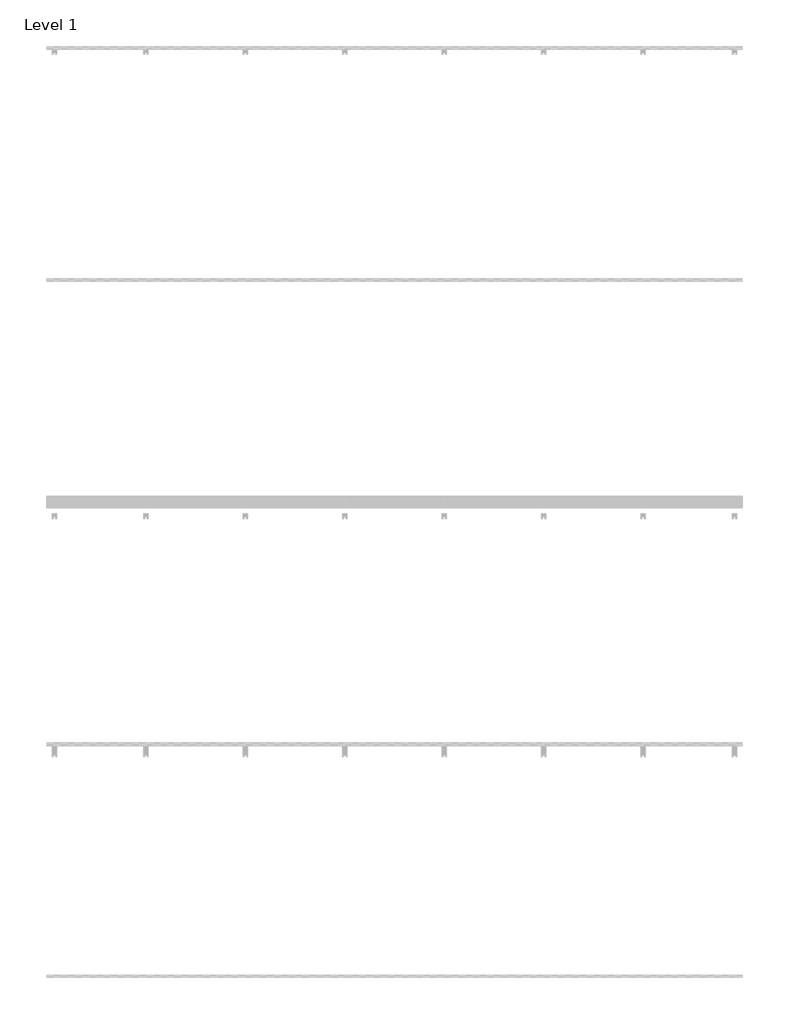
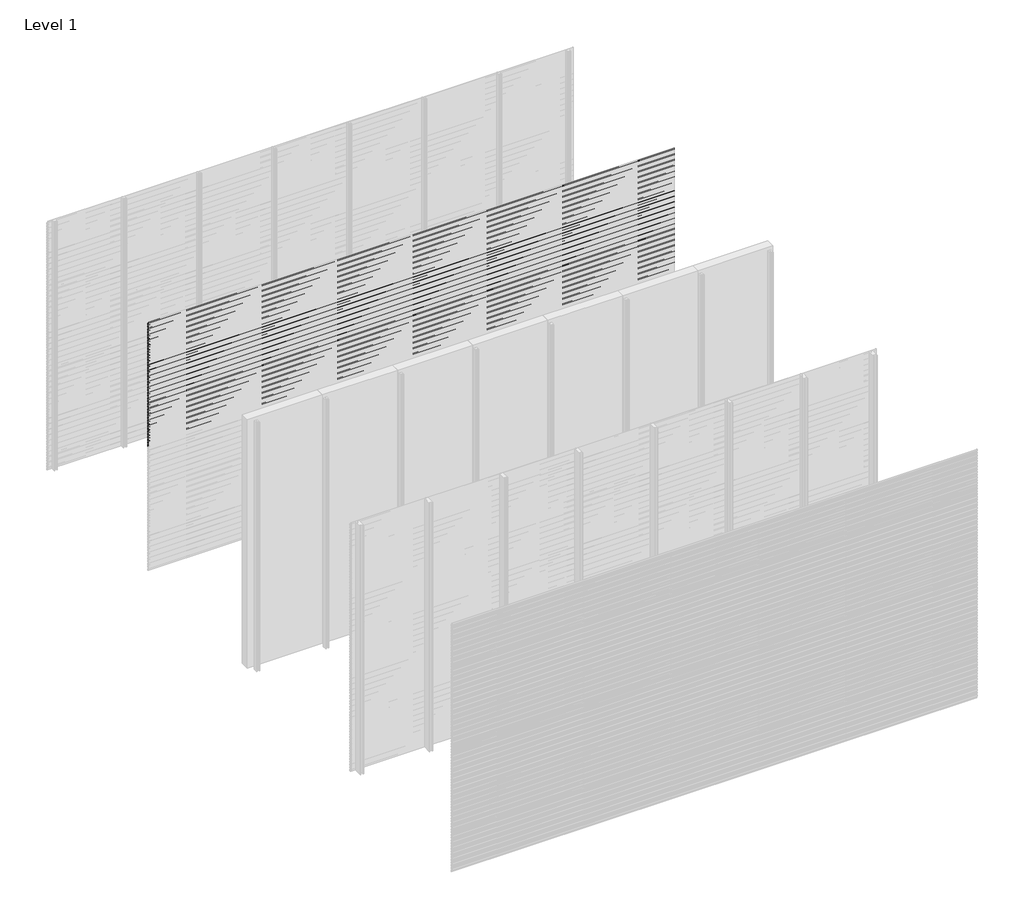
# One storey, part 69 of 96: 77 proxies.
"""IFC4 building model written with IfcOpenShell, lengths in millimetres."""

from ifc_helpers import new_model, si_unit, frame, origin, place, context, project, spatial, polyline, outline, extrude, element, save

model = new_model("IFC4")

# Units and contexts
model_context = context("Model", 3, world=origin())
ifc_project = project(units=[si_unit("LENGTHUNIT", "METRE", prefix="MILLI")], contexts=[model_context])

# Site, building, storey
site = spatial("IfcSite", under=ifc_project)
building = spatial("IfcBuilding", under=site)
storey = spatial("IfcBuildingStorey", under=building, Name="Level 1", Elevation=0.0)

# Proxies
placement = place(None, origin())
element("IfcBuildingElementProxy", 1, Name="Wall Sweeps", at=placement, inside=storey, context=model_context, shape_type="SweptSolid", body=[
    extrude(outline(polyline([(-13977.6, 2971.7655033), (-13977.6, 2957.4779188), (-13982.4114965, 2954.7), (-13982.4114965, 2955.9701706), (-13978.85, 2958.0264016), (-13978.85, 2971.0437382), (-13998.0, 2982.1000799), (-13998.0, 2997.0), (-13996.75, 2997.0), (-13996.75, 2982.8217609), (-13977.6, 2971.7655033)])), frame((0.0, 0.0, 0.0), z_axis=(1.0, 0.0, 0.0), x_axis=(0.0, 1.0, 0.0)), (0.0, 0.0, 1.0), 6000.0),
])
element("IfcBuildingElementProxy", 2, Name="Wall Sweeps", at=placement, inside=storey, context=model_context, shape_type="SweptSolid", body=[
    extrude(outline(polyline([(-13977.6, 2938.4655033), (-13977.6, 2924.1779188), (-13982.4114965, 2921.4), (-13982.4114965, 2922.6701706), (-13978.85, 2924.7264016), (-13978.85, 2937.7437382), (-13998.0, 2948.8000799), (-13998.0, 2963.7), (-13996.75, 2963.7), (-13996.75, 2949.5217609), (-13977.6, 2938.4655033)])), frame((0.0, 0.0, 0.0), z_axis=(1.0, 0.0, 0.0), x_axis=(0.0, 1.0, 0.0)), (0.0, 0.0, 1.0), 6000.0),
])
element("IfcBuildingElementProxy", 3, Name="Wall Sweeps", at=placement, inside=storey, context=model_context, shape_type="SweptSolid", body=[
    extrude(outline(polyline([(-13977.6, 2905.1655033), (-13977.6, 2890.8779188), (-13982.4114965, 2888.1), (-13982.4114965, 2889.3701706), (-13978.85, 2891.4264016), (-13978.85, 2904.4437382), (-13998.0, 2915.5000799), (-13998.0, 2930.4), (-13996.75, 2930.4), (-13996.75, 2916.2217609), (-13977.6, 2905.1655033)])), frame((0.0, 0.0, 0.0), z_axis=(1.0, 0.0, 0.0), x_axis=(0.0, 1.0, 0.0)), (0.0, 0.0, 1.0), 6000.0),
])
element("IfcBuildingElementProxy", 4, Name="Wall Sweeps", at=placement, inside=storey, context=model_context, shape_type="SweptSolid", body=[
    extrude(outline(polyline([(-13977.6, 2871.8655033), (-13977.6, 2857.5779188), (-13982.4114965, 2854.8), (-13982.4114965, 2856.0701706), (-13978.85, 2858.1264016), (-13978.85, 2871.1437382), (-13998.0, 2882.2000799), (-13998.0, 2897.1), (-13996.75, 2897.1), (-13996.75, 2882.9217609), (-13977.6, 2871.8655033)])), frame((0.0, 0.0, 0.0), z_axis=(1.0, 0.0, 0.0), x_axis=(0.0, 1.0, 0.0)), (0.0, 0.0, 1.0), 6000.0),
])
element("IfcBuildingElementProxy", 5, Name="Wall Sweeps", at=placement, inside=storey, context=model_context, shape_type="SweptSolid", body=[
    extrude(outline(polyline([(-13977.6, 2838.5655033), (-13977.6, 2824.2779188), (-13982.4114965, 2821.5), (-13982.4114965, 2822.7701706), (-13978.85, 2824.8264016), (-13978.85, 2837.8437382), (-13998.0, 2848.9000799), (-13998.0, 2863.8), (-13996.75, 2863.8), (-13996.75, 2849.6217609), (-13977.6, 2838.5655033)])), frame((0.0, 0.0, 0.0), z_axis=(1.0, 0.0, 0.0), x_axis=(0.0, 1.0, 0.0)), (0.0, 0.0, 1.0), 6000.0),
])
element("IfcBuildingElementProxy", 6, Name="Wall Sweeps", at=placement, inside=storey, context=model_context, shape_type="SweptSolid", body=[
    extrude(outline(polyline([(-13977.6, 2805.2655033), (-13977.6, 2790.9779188), (-13982.4114965, 2788.2), (-13982.4114965, 2789.4701706), (-13978.85, 2791.5264016), (-13978.85, 2804.5437382), (-13998.0, 2815.6000799), (-13998.0, 2830.5), (-13996.75, 2830.5), (-13996.75, 2816.3217609), (-13977.6, 2805.2655033)])), frame((0.0, 0.0, 0.0), z_axis=(1.0, 0.0, 0.0), x_axis=(0.0, 1.0, 0.0)), (0.0, 0.0, 1.0), 6000.0),
])
element("IfcBuildingElementProxy", 7, Name="Wall Sweeps", at=placement, inside=storey, context=model_context, shape_type="SweptSolid", body=[
    extrude(outline(polyline([(-13977.6, 2771.9655033), (-13977.6, 2757.6779188), (-13982.4114965, 2754.9), (-13982.4114965, 2756.1701706), (-13978.85, 2758.2264016), (-13978.85, 2771.2437382), (-13998.0, 2782.3000799), (-13998.0, 2797.2), (-13996.75, 2797.2), (-13996.75, 2783.0217609), (-13977.6, 2771.9655033)])), frame((0.0, 0.0, 0.0), z_axis=(1.0, 0.0, 0.0), x_axis=(0.0, 1.0, 0.0)), (0.0, 0.0, 1.0), 6000.0),
])
element("IfcBuildingElementProxy", 8, Name="Wall Sweeps", at=placement, inside=storey, context=model_context, shape_type="SweptSolid", body=[
    extrude(outline(polyline([(-13977.6, 2738.6655033), (-13977.6, 2724.3779188), (-13982.4114965, 2721.6), (-13982.4114965, 2722.8701706), (-13978.85, 2724.9264016), (-13978.85, 2737.9437382), (-13998.0, 2749.0000799), (-13998.0, 2763.9), (-13996.75, 2763.9), (-13996.75, 2749.7217609), (-13977.6, 2738.6655033)])), frame((0.0, 0.0, 0.0), z_axis=(1.0, 0.0, 0.0), x_axis=(0.0, 1.0, 0.0)), (0.0, 0.0, 1.0), 6000.0),
])
element("IfcBuildingElementProxy", 9, Name="Wall Sweeps", at=placement, inside=storey, context=model_context, shape_type="SweptSolid", body=[
    extrude(outline(polyline([(-13977.6, 2705.3655033), (-13977.6, 2691.0779188), (-13982.4114965, 2688.3), (-13982.4114965, 2689.5701706), (-13978.85, 2691.6264016), (-13978.85, 2704.6437382), (-13998.0, 2715.7000799), (-13998.0, 2730.6), (-13996.75, 2730.6), (-13996.75, 2716.4217609), (-13977.6, 2705.3655033)])), frame((0.0, 0.0, 0.0), z_axis=(1.0, 0.0, 0.0), x_axis=(0.0, 1.0, 0.0)), (0.0, 0.0, 1.0), 6000.0),
])
element("IfcBuildingElementProxy", 10, Name="Wall Sweeps", at=placement, inside=storey, context=model_context, shape_type="SweptSolid", body=[
    extrude(outline(polyline([(-13977.6, 2672.0655033), (-13977.6, 2657.7779188), (-13982.4114965, 2655.0), (-13982.4114965, 2656.2701706), (-13978.85, 2658.3264016), (-13978.85, 2671.3437382), (-13998.0, 2682.4000799), (-13998.0, 2697.3), (-13996.75, 2697.3), (-13996.75, 2683.1217609), (-13977.6, 2672.0655033)])), frame((0.0, 0.0, 0.0), z_axis=(1.0, 0.0, 0.0), x_axis=(0.0, 1.0, 0.0)), (0.0, 0.0, 1.0), 6000.0),
])
element("IfcBuildingElementProxy", 11, Name="Wall Sweeps", at=placement, inside=storey, context=model_context, shape_type="SweptSolid", body=[
    extrude(outline(polyline([(-13977.6, 2638.7655033), (-13977.6, 2624.4779188), (-13982.4114965, 2621.7), (-13982.4114965, 2622.9701706), (-13978.85, 2625.0264016), (-13978.85, 2638.0437382), (-13998.0, 2649.1000799), (-13998.0, 2664.0), (-13996.75, 2664.0), (-13996.75, 2649.8217609), (-13977.6, 2638.7655033)])), frame((0.0, 0.0, 0.0), z_axis=(1.0, 0.0, 0.0), x_axis=(0.0, 1.0, 0.0)), (0.0, 0.0, 1.0), 6000.0),
])
element("IfcBuildingElementProxy", 12, Name="Wall Sweeps", at=placement, inside=storey, context=model_context, shape_type="SweptSolid", body=[
    extrude(outline(polyline([(-13977.6, 2605.4655033), (-13977.6, 2591.1779188), (-13982.4114965, 2588.4), (-13982.4114965, 2589.6701706), (-13978.85, 2591.7264016), (-13978.85, 2604.7437382), (-13998.0, 2615.8000799), (-13998.0, 2630.7), (-13996.75, 2630.7), (-13996.75, 2616.5217609), (-13977.6, 2605.4655033)])), frame((0.0, 0.0, 0.0), z_axis=(1.0, 0.0, 0.0), x_axis=(0.0, 1.0, 0.0)), (0.0, 0.0, 1.0), 6000.0),
])
element("IfcBuildingElementProxy", 13, Name="Wall Sweeps", at=placement, inside=storey, context=model_context, shape_type="SweptSolid", body=[
    extrude(outline(polyline([(-13977.6, 2572.1655033), (-13977.6, 2557.8779188), (-13982.4114965, 2555.1), (-13982.4114965, 2556.3701706), (-13978.85, 2558.4264016), (-13978.85, 2571.4437382), (-13998.0, 2582.5000799), (-13998.0, 2597.4), (-13996.75, 2597.4), (-13996.75, 2583.2217609), (-13977.6, 2572.1655033)])), frame((0.0, 0.0, 0.0), z_axis=(1.0, 0.0, 0.0), x_axis=(0.0, 1.0, 0.0)), (0.0, 0.0, 1.0), 6000.0),
])
element("IfcBuildingElementProxy", 14, Name="Wall Sweeps", at=placement, inside=storey, context=model_context, shape_type="SweptSolid", body=[
    extrude(outline(polyline([(-13977.6, 2538.8655033), (-13977.6, 2524.5779188), (-13982.4114965, 2521.8), (-13982.4114965, 2523.0701706), (-13978.85, 2525.1264016), (-13978.85, 2538.1437382), (-13998.0, 2549.2000799), (-13998.0, 2564.1), (-13996.75, 2564.1), (-13996.75, 2549.9217609), (-13977.6, 2538.8655033)])), frame((0.0, 0.0, 0.0), z_axis=(1.0, 0.0, 0.0), x_axis=(0.0, 1.0, 0.0)), (0.0, 0.0, 1.0), 6000.0),
])
element("IfcBuildingElementProxy", 15, Name="Wall Sweeps", at=placement, inside=storey, context=model_context, shape_type="SweptSolid", body=[
    extrude(outline(polyline([(-13977.6, 2505.5655033), (-13977.6, 2491.2779188), (-13982.4114965, 2488.5), (-13982.4114965, 2489.7701706), (-13978.85, 2491.8264016), (-13978.85, 2504.8437382), (-13998.0, 2515.9000799), (-13998.0, 2530.8), (-13996.75, 2530.8), (-13996.75, 2516.6217609), (-13977.6, 2505.5655033)])), frame((0.0, 0.0, 0.0), z_axis=(1.0, 0.0, 0.0), x_axis=(0.0, 1.0, 0.0)), (0.0, 0.0, 1.0), 6000.0),
])
element("IfcBuildingElementProxy", 16, Name="Wall Sweeps", at=placement, inside=storey, context=model_context, shape_type="SweptSolid", body=[
    extrude(outline(polyline([(-13977.6, 2472.2655033), (-13977.6, 2457.9779188), (-13982.4114965, 2455.2), (-13982.4114965, 2456.4701706), (-13978.85, 2458.5264016), (-13978.85, 2471.5437382), (-13998.0, 2482.6000799), (-13998.0, 2497.5), (-13996.75, 2497.5), (-13996.75, 2483.3217609), (-13977.6, 2472.2655033)])), frame((0.0, 0.0, 0.0), z_axis=(1.0, 0.0, 0.0), x_axis=(0.0, 1.0, 0.0)), (0.0, 0.0, 1.0), 6000.0),
])
element("IfcBuildingElementProxy", 17, Name="Wall Sweeps", at=placement, inside=storey, context=model_context, shape_type="SweptSolid", body=[
    extrude(outline(polyline([(-13977.6, 2438.9655033), (-13977.6, 2424.6779188), (-13982.4114965, 2421.9), (-13982.4114965, 2423.1701706), (-13978.85, 2425.2264016), (-13978.85, 2438.2437382), (-13998.0, 2449.3000799), (-13998.0, 2464.2), (-13996.75, 2464.2), (-13996.75, 2450.0217609), (-13977.6, 2438.9655033)])), frame((0.0, 0.0, 0.0), z_axis=(1.0, 0.0, 0.0), x_axis=(0.0, 1.0, 0.0)), (0.0, 0.0, 1.0), 6000.0),
])
element("IfcBuildingElementProxy", 18, Name="Wall Sweeps", at=placement, inside=storey, context=model_context, shape_type="SweptSolid", body=[
    extrude(outline(polyline([(-13977.6, 2405.6655033), (-13977.6, 2391.3779188), (-13982.4114965, 2388.6), (-13982.4114965, 2389.8701706), (-13978.85, 2391.9264016), (-13978.85, 2404.9437382), (-13998.0, 2416.0000799), (-13998.0, 2430.9), (-13996.75, 2430.9), (-13996.75, 2416.7217609), (-13977.6, 2405.6655033)])), frame((0.0, 0.0, 0.0), z_axis=(1.0, 0.0, 0.0), x_axis=(0.0, 1.0, 0.0)), (0.0, 0.0, 1.0), 6000.0),
])
element("IfcBuildingElementProxy", 19, Name="Wall Sweeps", at=placement, inside=storey, context=model_context, shape_type="SweptSolid", body=[
    extrude(outline(polyline([(-13977.6, 2372.3655033), (-13977.6, 2358.0779188), (-13982.4114965, 2355.3), (-13982.4114965, 2356.5701706), (-13978.85, 2358.6264016), (-13978.85, 2371.6437382), (-13998.0, 2382.7000799), (-13998.0, 2397.6), (-13996.75, 2397.6), (-13996.75, 2383.4217609), (-13977.6, 2372.3655033)])), frame((0.0, 0.0, 0.0), z_axis=(1.0, 0.0, 0.0), x_axis=(0.0, 1.0, 0.0)), (0.0, 0.0, 1.0), 6000.0),
])
element("IfcBuildingElementProxy", 20, Name="Wall Sweeps", at=placement, inside=storey, context=model_context, shape_type="SweptSolid", body=[
    extrude(outline(polyline([(-13977.6, 2339.0655033), (-13977.6, 2324.7779188), (-13982.4114965, 2322.0), (-13982.4114965, 2323.2701706), (-13978.85, 2325.3264016), (-13978.85, 2338.3437382), (-13998.0, 2349.4000799), (-13998.0, 2364.3), (-13996.75, 2364.3), (-13996.75, 2350.1217609), (-13977.6, 2339.0655033)])), frame((0.0, 0.0, 0.0), z_axis=(1.0, 0.0, 0.0), x_axis=(0.0, 1.0, 0.0)), (0.0, 0.0, 1.0), 6000.0),
])
element("IfcBuildingElementProxy", 21, Name="Wall Sweeps", at=placement, inside=storey, context=model_context, shape_type="SweptSolid", body=[
    extrude(outline(polyline([(-13977.6, 2305.7655033), (-13977.6, 2291.4779188), (-13982.4114965, 2288.7), (-13982.4114965, 2289.9701706), (-13978.85, 2292.0264016), (-13978.85, 2305.0437382), (-13998.0, 2316.1000799), (-13998.0, 2331.0), (-13996.75, 2331.0), (-13996.75, 2316.8217609), (-13977.6, 2305.7655033)])), frame((0.0, 0.0, 0.0), z_axis=(1.0, 0.0, 0.0), x_axis=(0.0, 1.0, 0.0)), (0.0, 0.0, 1.0), 6000.0),
])
element("IfcBuildingElementProxy", 22, Name="Wall Sweeps", at=placement, inside=storey, context=model_context, shape_type="SweptSolid", body=[
    extrude(outline(polyline([(-13977.6, 2272.4655033), (-13977.6, 2258.1779188), (-13982.4114965, 2255.4), (-13982.4114965, 2256.6701706), (-13978.85, 2258.7264016), (-13978.85, 2271.7437382), (-13998.0, 2282.8000799), (-13998.0, 2297.7), (-13996.75, 2297.7), (-13996.75, 2283.5217609), (-13977.6, 2272.4655033)])), frame((0.0, 0.0, 0.0), z_axis=(1.0, 0.0, 0.0), x_axis=(0.0, 1.0, 0.0)), (0.0, 0.0, 1.0), 6000.0),
])
element("IfcBuildingElementProxy", 23, Name="Wall Sweeps", at=placement, inside=storey, context=model_context, shape_type="SweptSolid", body=[
    extrude(outline(polyline([(-13977.6, 2239.1655033), (-13977.6, 2224.8779188), (-13982.4114965, 2222.1), (-13982.4114965, 2223.3701706), (-13978.85, 2225.4264016), (-13978.85, 2238.4437382), (-13998.0, 2249.5000799), (-13998.0, 2264.4), (-13996.75, 2264.4), (-13996.75, 2250.2217609), (-13977.6, 2239.1655033)])), frame((0.0, 0.0, 0.0), z_axis=(1.0, 0.0, 0.0), x_axis=(0.0, 1.0, 0.0)), (0.0, 0.0, 1.0), 6000.0),
])
element("IfcBuildingElementProxy", 24, Name="Wall Sweeps", at=placement, inside=storey, context=model_context, shape_type="SweptSolid", body=[
    extrude(outline(polyline([(-13977.6, 2205.8655033), (-13977.6, 2191.5779188), (-13982.4114965, 2188.8), (-13982.4114965, 2190.0701706), (-13978.85, 2192.1264016), (-13978.85, 2205.1437382), (-13998.0, 2216.2000799), (-13998.0, 2231.1), (-13996.75, 2231.1), (-13996.75, 2216.9217609), (-13977.6, 2205.8655033)])), frame((0.0, 0.0, 0.0), z_axis=(1.0, 0.0, 0.0), x_axis=(0.0, 1.0, 0.0)), (0.0, 0.0, 1.0), 6000.0),
])
element("IfcBuildingElementProxy", 25, Name="Wall Sweeps", at=placement, inside=storey, context=model_context, shape_type="SweptSolid", body=[
    extrude(outline(polyline([(-13977.6, 2172.5655033), (-13977.6, 2158.2779188), (-13982.4114965, 2155.5), (-13982.4114965, 2156.7701706), (-13978.85, 2158.8264016), (-13978.85, 2171.8437382), (-13998.0, 2182.9000799), (-13998.0, 2197.8), (-13996.75, 2197.8), (-13996.75, 2183.6217609), (-13977.6, 2172.5655033)])), frame((0.0, 0.0, 0.0), z_axis=(1.0, 0.0, 0.0), x_axis=(0.0, 1.0, 0.0)), (0.0, 0.0, 1.0), 6000.0),
])
element("IfcBuildingElementProxy", 26, Name="Wall Sweeps", at=placement, inside=storey, context=model_context, shape_type="SweptSolid", body=[
    extrude(outline(polyline([(-13977.6, 2139.2655033), (-13977.6, 2124.9779188), (-13982.4114965, 2122.2), (-13982.4114965, 2123.4701706), (-13978.85, 2125.5264016), (-13978.85, 2138.5437382), (-13998.0, 2149.6000799), (-13998.0, 2164.5), (-13996.75, 2164.5), (-13996.75, 2150.3217609), (-13977.6, 2139.2655033)])), frame((0.0, 0.0, 0.0), z_axis=(1.0, 0.0, 0.0), x_axis=(0.0, 1.0, 0.0)), (0.0, 0.0, 1.0), 6000.0),
])
element("IfcBuildingElementProxy", 27, Name="Wall Sweeps", at=placement, inside=storey, context=model_context, shape_type="SweptSolid", body=[
    extrude(outline(polyline([(-13977.6, 2105.9655033), (-13977.6, 2091.6779188), (-13982.4114965, 2088.9), (-13982.4114965, 2090.1701706), (-13978.85, 2092.2264016), (-13978.85, 2105.2437382), (-13998.0, 2116.3000799), (-13998.0, 2131.2), (-13996.75, 2131.2), (-13996.75, 2117.0217609), (-13977.6, 2105.9655033)])), frame((0.0, 0.0, 0.0), z_axis=(1.0, 0.0, 0.0), x_axis=(0.0, 1.0, 0.0)), (0.0, 0.0, 1.0), 6000.0),
])
element("IfcBuildingElementProxy", 28, Name="Wall Sweeps", at=placement, inside=storey, context=model_context, shape_type="SweptSolid", body=[
    extrude(outline(polyline([(-13977.6, 2072.6655033), (-13977.6, 2058.3779188), (-13982.4114965, 2055.6), (-13982.4114965, 2056.8701706), (-13978.85, 2058.9264016), (-13978.85, 2071.9437382), (-13998.0, 2083.0000799), (-13998.0, 2097.9), (-13996.75, 2097.9), (-13996.75, 2083.7217609), (-13977.6, 2072.6655033)])), frame((0.0, 0.0, 0.0), z_axis=(1.0, 0.0, 0.0), x_axis=(0.0, 1.0, 0.0)), (0.0, 0.0, 1.0), 6000.0),
])
element("IfcBuildingElementProxy", 29, Name="Wall Sweeps", at=placement, inside=storey, context=model_context, shape_type="SweptSolid", body=[
    extrude(outline(polyline([(-13977.6, 2039.3655033), (-13977.6, 2025.0779188), (-13982.4114965, 2022.3), (-13982.4114965, 2023.5701706), (-13978.85, 2025.6264016), (-13978.85, 2038.6437382), (-13998.0, 2049.7000799), (-13998.0, 2064.6), (-13996.75, 2064.6), (-13996.75, 2050.4217609), (-13977.6, 2039.3655033)])), frame((0.0, 0.0, 0.0), z_axis=(1.0, 0.0, 0.0), x_axis=(0.0, 1.0, 0.0)), (0.0, 0.0, 1.0), 6000.0),
])
element("IfcBuildingElementProxy", 30, Name="Wall Sweeps", at=placement, inside=storey, context=model_context, shape_type="SweptSolid", body=[
    extrude(outline(polyline([(-13977.6, 2006.0655033), (-13977.6, 1991.7779188), (-13982.4114965, 1989.0), (-13982.4114965, 1990.2701706), (-13978.85, 1992.3264016), (-13978.85, 2005.3437382), (-13998.0, 2016.4000799), (-13998.0, 2031.3), (-13996.75, 2031.3), (-13996.75, 2017.1217609), (-13977.6, 2006.0655033)])), frame((0.0, 0.0, 0.0), z_axis=(1.0, 0.0, 0.0), x_axis=(0.0, 1.0, 0.0)), (0.0, 0.0, 1.0), 6000.0),
])
element("IfcBuildingElementProxy", 31, Name="Wall Sweeps", at=placement, inside=storey, context=model_context, shape_type="SweptSolid", body=[
    extrude(outline(polyline([(-13977.6, 1972.7655033), (-13977.6, 1958.4779188), (-13982.4114965, 1955.7), (-13982.4114965, 1956.9701706), (-13978.85, 1959.0264016), (-13978.85, 1972.0437382), (-13998.0, 1983.1000799), (-13998.0, 1998.0), (-13996.75, 1998.0), (-13996.75, 1983.8217609), (-13977.6, 1972.7655033)])), frame((0.0, 0.0, 0.0), z_axis=(1.0, 0.0, 0.0), x_axis=(0.0, 1.0, 0.0)), (0.0, 0.0, 1.0), 6000.0),
])
element("IfcBuildingElementProxy", 32, Name="Wall Sweeps", at=placement, inside=storey, context=model_context, shape_type="SweptSolid", body=[
    extrude(outline(polyline([(-13977.6, 1939.4655033), (-13977.6, 1925.1779188), (-13982.4114965, 1922.4), (-13982.4114965, 1923.6701706), (-13978.85, 1925.7264016), (-13978.85, 1938.7437382), (-13998.0, 1949.8000799), (-13998.0, 1964.7), (-13996.75, 1964.7), (-13996.75, 1950.5217609), (-13977.6, 1939.4655033)])), frame((0.0, 0.0, 0.0), z_axis=(1.0, 0.0, 0.0), x_axis=(0.0, 1.0, 0.0)), (0.0, 0.0, 1.0), 6000.0),
])
element("IfcBuildingElementProxy", 33, Name="Wall Sweeps", at=placement, inside=storey, context=model_context, shape_type="SweptSolid", body=[
    extrude(outline(polyline([(-13977.6, 1906.1655033), (-13977.6, 1891.8779188), (-13982.4114965, 1889.1), (-13982.4114965, 1890.3701706), (-13978.85, 1892.4264016), (-13978.85, 1905.4437382), (-13998.0, 1916.5000799), (-13998.0, 1931.4), (-13996.75, 1931.4), (-13996.75, 1917.2217609), (-13977.6, 1906.1655033)])), frame((0.0, 0.0, 0.0), z_axis=(1.0, 0.0, 0.0), x_axis=(0.0, 1.0, 0.0)), (0.0, 0.0, 1.0), 6000.0),
])
element("IfcBuildingElementProxy", 34, Name="Wall Sweeps", at=placement, inside=storey, context=model_context, shape_type="SweptSolid", body=[
    extrude(outline(polyline([(-13977.6, 1872.8655033), (-13977.6, 1858.5779188), (-13982.4114965, 1855.8), (-13982.4114965, 1857.0701706), (-13978.85, 1859.1264016), (-13978.85, 1872.1437382), (-13998.0, 1883.2000799), (-13998.0, 1898.1), (-13996.75, 1898.1), (-13996.75, 1883.9217609), (-13977.6, 1872.8655033)])), frame((0.0, 0.0, 0.0), z_axis=(1.0, 0.0, 0.0), x_axis=(0.0, 1.0, 0.0)), (0.0, 0.0, 1.0), 6000.0),
])
element("IfcBuildingElementProxy", 35, Name="Wall Sweeps", at=placement, inside=storey, context=model_context, shape_type="SweptSolid", body=[
    extrude(outline(polyline([(-13977.6, 1839.5655033), (-13977.6, 1825.2779188), (-13982.4114965, 1822.5), (-13982.4114965, 1823.7701706), (-13978.85, 1825.8264016), (-13978.85, 1838.8437382), (-13998.0, 1849.9000799), (-13998.0, 1864.8), (-13996.75, 1864.8), (-13996.75, 1850.6217609), (-13977.6, 1839.5655033)])), frame((0.0, 0.0, 0.0), z_axis=(1.0, 0.0, 0.0), x_axis=(0.0, 1.0, 0.0)), (0.0, 0.0, 1.0), 6000.0),
])
element("IfcBuildingElementProxy", 36, Name="Wall Sweeps", at=placement, inside=storey, context=model_context, shape_type="SweptSolid", body=[
    extrude(outline(polyline([(-13977.6, 1806.2655033), (-13977.6, 1791.9779188), (-13982.4114965, 1789.2), (-13982.4114965, 1790.4701706), (-13978.85, 1792.5264016), (-13978.85, 1805.5437382), (-13998.0, 1816.6000799), (-13998.0, 1831.5), (-13996.75, 1831.5), (-13996.75, 1817.3217609), (-13977.6, 1806.2655033)])), frame((0.0, 0.0, 0.0), z_axis=(1.0, 0.0, 0.0), x_axis=(0.0, 1.0, 0.0)), (0.0, 0.0, 1.0), 6000.0),
])
element("IfcBuildingElementProxy", 37, Name="Wall Sweeps", at=placement, inside=storey, context=model_context, shape_type="SweptSolid", body=[
    extrude(outline(polyline([(-13977.6, 1772.9655033), (-13977.6, 1758.6779188), (-13982.4114965, 1755.9), (-13982.4114965, 1757.1701706), (-13978.85, 1759.2264016), (-13978.85, 1772.2437382), (-13998.0, 1783.3000799), (-13998.0, 1798.2), (-13996.75, 1798.2), (-13996.75, 1784.0217609), (-13977.6, 1772.9655033)])), frame((0.0, 0.0, 0.0), z_axis=(1.0, 0.0, 0.0), x_axis=(0.0, 1.0, 0.0)), (0.0, 0.0, 1.0), 6000.0),
])
element("IfcBuildingElementProxy", 38, Name="Wall Sweeps", at=placement, inside=storey, context=model_context, shape_type="SweptSolid", body=[
    extrude(outline(polyline([(-13977.6, 1739.6655033), (-13977.6, 1725.3779188), (-13982.4114965, 1722.6), (-13982.4114965, 1723.8701706), (-13978.85, 1725.9264016), (-13978.85, 1738.9437382), (-13998.0, 1750.0000799), (-13998.0, 1764.9), (-13996.75, 1764.9), (-13996.75, 1750.7217609), (-13977.6, 1739.6655033)])), frame((0.0, 0.0, 0.0), z_axis=(1.0, 0.0, 0.0), x_axis=(0.0, 1.0, 0.0)), (0.0, 0.0, 1.0), 6000.0),
])
element("IfcBuildingElementProxy", 39, Name="Wall Sweeps", at=placement, inside=storey, context=model_context, shape_type="SweptSolid", body=[
    extrude(outline(polyline([(-13977.6, 1706.3655033), (-13977.6, 1692.0779188), (-13982.4114965, 1689.3), (-13982.4114965, 1690.5701706), (-13978.85, 1692.6264016), (-13978.85, 1705.6437382), (-13998.0, 1716.7000799), (-13998.0, 1731.6), (-13996.75, 1731.6), (-13996.75, 1717.4217609), (-13977.6, 1706.3655033)])), frame((0.0, 0.0, 0.0), z_axis=(1.0, 0.0, 0.0), x_axis=(0.0, 1.0, 0.0)), (0.0, 0.0, 1.0), 6000.0),
])
element("IfcBuildingElementProxy", 40, Name="Wall Sweeps", at=placement, inside=storey, context=model_context, shape_type="SweptSolid", body=[
    extrude(outline(polyline([(-13977.6, 1673.0655033), (-13977.6, 1658.7779188), (-13982.4114965, 1656.0), (-13982.4114965, 1657.2701706), (-13978.85, 1659.3264016), (-13978.85, 1672.3437382), (-13998.0, 1683.4000799), (-13998.0, 1698.3), (-13996.75, 1698.3), (-13996.75, 1684.1217609), (-13977.6, 1673.0655033)])), frame((0.0, 0.0, 0.0), z_axis=(1.0, 0.0, 0.0), x_axis=(0.0, 1.0, 0.0)), (0.0, 0.0, 1.0), 6000.0),
])
element("IfcBuildingElementProxy", 41, Name="Wall Sweeps", at=placement, inside=storey, context=model_context, shape_type="SweptSolid", body=[
    extrude(outline(polyline([(-13977.6, 1639.7655033), (-13977.6, 1625.4779188), (-13982.4114965, 1622.7), (-13982.4114965, 1623.9701706), (-13978.85, 1626.0264016), (-13978.85, 1639.0437382), (-13998.0, 1650.1000799), (-13998.0, 1665.0), (-13996.75, 1665.0), (-13996.75, 1650.8217609), (-13977.6, 1639.7655033)])), frame((0.0, 0.0, 0.0), z_axis=(1.0, 0.0, 0.0), x_axis=(0.0, 1.0, 0.0)), (0.0, 0.0, 1.0), 6000.0),
])
element("IfcBuildingElementProxy", 42, Name="Wall Sweeps", at=placement, inside=storey, context=model_context, shape_type="SweptSolid", body=[
    extrude(outline(polyline([(-13977.6, 1606.4655033), (-13977.6, 1592.1779188), (-13982.4114965, 1589.4), (-13982.4114965, 1590.6701706), (-13978.85, 1592.7264016), (-13978.85, 1605.7437382), (-13998.0, 1616.8000799), (-13998.0, 1631.7), (-13996.75, 1631.7), (-13996.75, 1617.5217609), (-13977.6, 1606.4655033)])), frame((0.0, 0.0, 0.0), z_axis=(1.0, 0.0, 0.0), x_axis=(0.0, 1.0, 0.0)), (0.0, 0.0, 1.0), 6000.0),
])
element("IfcBuildingElementProxy", 43, Name="Wall Sweeps", at=placement, inside=storey, context=model_context, shape_type="SweptSolid", body=[
    extrude(outline(polyline([(-13977.6, 1573.1655033), (-13977.6, 1558.8779188), (-13982.4114965, 1556.1), (-13982.4114965, 1557.3701706), (-13978.85, 1559.4264016), (-13978.85, 1572.4437382), (-13998.0, 1583.5000799), (-13998.0, 1598.4), (-13996.75, 1598.4), (-13996.75, 1584.2217609), (-13977.6, 1573.1655033)])), frame((0.0, 0.0, 0.0), z_axis=(1.0, 0.0, 0.0), x_axis=(0.0, 1.0, 0.0)), (0.0, 0.0, 1.0), 6000.0),
])
element("IfcBuildingElementProxy", 44, Name="Wall Sweeps", at=placement, inside=storey, context=model_context, shape_type="SweptSolid", body=[
    extrude(outline(polyline([(-13977.6, 1539.8655033), (-13977.6, 1525.5779188), (-13982.4114965, 1522.8), (-13982.4114965, 1524.0701706), (-13978.85, 1526.1264016), (-13978.85, 1539.1437382), (-13998.0, 1550.2000799), (-13998.0, 1565.1), (-13996.75, 1565.1), (-13996.75, 1550.9217609), (-13977.6, 1539.8655033)])), frame((0.0, 0.0, 0.0), z_axis=(1.0, 0.0, 0.0), x_axis=(0.0, 1.0, 0.0)), (0.0, 0.0, 1.0), 6000.0),
])
element("IfcBuildingElementProxy", 45, Name="Wall Sweeps", at=placement, inside=storey, context=model_context, shape_type="SweptSolid", body=[
    extrude(outline(polyline([(-13977.6, 1506.5655033), (-13977.6, 1492.2779188), (-13982.4114965, 1489.5), (-13982.4114965, 1490.7701706), (-13978.85, 1492.8264016), (-13978.85, 1505.8437382), (-13998.0, 1516.9000799), (-13998.0, 1531.8), (-13996.75, 1531.8), (-13996.75, 1517.6217609), (-13977.6, 1506.5655033)])), frame((0.0, 0.0, 0.0), z_axis=(1.0, 0.0, 0.0), x_axis=(0.0, 1.0, 0.0)), (0.0, 0.0, 1.0), 6000.0),
])
element("IfcBuildingElementProxy", 46, Name="Wall Sweeps", at=placement, inside=storey, context=model_context, shape_type="SweptSolid", body=[
    extrude(outline(polyline([(-17977.6, 1040.3655033), (-17977.6, 1026.0779188), (-17982.4114965, 1023.3), (-17982.4114965, 1024.5701706), (-17978.85, 1026.6264016), (-17978.85, 1039.6437382), (-17998.0, 1050.7000799), (-17998.0, 1065.6), (-17996.75, 1065.6), (-17996.75, 1051.4217609), (-17977.6, 1040.3655033)])), frame((5142.8571429, 0.0, 0.0), z_axis=(1.0, 0.0, 0.0), x_axis=(0.0, 1.0, 0.0)), (0.0, 0.0, 1.0), 857.1428571),
])
element("IfcBuildingElementProxy", 47, Name="Wall Sweeps", at=placement, inside=storey, context=model_context, shape_type="SweptSolid", body=[
    extrude(outline(polyline([(-17977.6, 1007.0655033), (-17977.6, 992.7779188), (-17982.4114965, 990.0), (-17982.4114965, 991.2701706), (-17978.85, 993.3264016), (-17978.85, 1006.3437382), (-17998.0, 1017.4000799), (-17998.0, 1032.3), (-17996.75, 1032.3), (-17996.75, 1018.1217609), (-17977.6, 1007.0655033)])), frame((5142.8571429, 0.0, 0.0), z_axis=(1.0, 0.0, 0.0), x_axis=(0.0, 1.0, 0.0)), (0.0, 0.0, 1.0), 857.1428571),
])
element("IfcBuildingElementProxy", 48, Name="Wall Sweeps", at=placement, inside=storey, context=model_context, shape_type="SweptSolid", body=[
    extrude(outline(polyline([(-17977.6, 973.7655033), (-17977.6, 959.4779188), (-17982.4114965, 956.7), (-17982.4114965, 957.9701706), (-17978.85, 960.0264016), (-17978.85, 973.0437382), (-17998.0, 984.1000799), (-17998.0, 999.0), (-17996.75, 999.0), (-17996.75, 984.8217609), (-17977.6, 973.7655033)])), frame((5142.8571429, 0.0, 0.0), z_axis=(1.0, 0.0, 0.0), x_axis=(0.0, 1.0, 0.0)), (0.0, 0.0, 1.0), 857.1428571),
])
element("IfcBuildingElementProxy", 49, Name="Wall Sweeps", at=placement, inside=storey, context=model_context, shape_type="SweptSolid", body=[
    extrude(outline(polyline([(-17977.6, 940.4655033), (-17977.6, 926.1779188), (-17982.4114965, 923.4), (-17982.4114965, 924.6701706), (-17978.85, 926.7264016), (-17978.85, 939.7437382), (-17998.0, 950.8000799), (-17998.0, 965.7), (-17996.75, 965.7), (-17996.75, 951.5217609), (-17977.6, 940.4655033)])), frame((5142.8571429, 0.0, 0.0), z_axis=(1.0, 0.0, 0.0), x_axis=(0.0, 1.0, 0.0)), (0.0, 0.0, 1.0), 857.1428571),
])
element("IfcBuildingElementProxy", 50, Name="Wall Sweeps", at=placement, inside=storey, context=model_context, shape_type="SweptSolid", body=[
    extrude(outline(polyline([(-17977.6, 907.1655033), (-17977.6, 892.8779188), (-17982.4114965, 890.1), (-17982.4114965, 891.3701706), (-17978.85, 893.4264016), (-17978.85, 906.4437382), (-17998.0, 917.5000799), (-17998.0, 932.4), (-17996.75, 932.4), (-17996.75, 918.2217609), (-17977.6, 907.1655033)])), frame((5142.8571429, 0.0, 0.0), z_axis=(1.0, 0.0, 0.0), x_axis=(0.0, 1.0, 0.0)), (0.0, 0.0, 1.0), 857.1428571),
])
element("IfcBuildingElementProxy", 51, Name="Wall Sweeps", at=placement, inside=storey, context=model_context, shape_type="SweptSolid", body=[
    extrude(outline(polyline([(-17977.6, 873.8655033), (-17977.6, 859.5779188), (-17982.4114965, 856.8), (-17982.4114965, 858.0701706), (-17978.85, 860.1264016), (-17978.85, 873.1437382), (-17998.0, 884.2000799), (-17998.0, 899.1), (-17996.75, 899.1), (-17996.75, 884.9217609), (-17977.6, 873.8655033)])), frame((5142.8571429, 0.0, 0.0), z_axis=(1.0, 0.0, 0.0), x_axis=(0.0, 1.0, 0.0)), (0.0, 0.0, 1.0), 857.1428571),
])
element("IfcBuildingElementProxy", 52, Name="Wall Sweeps", at=placement, inside=storey, context=model_context, shape_type="SweptSolid", body=[
    extrude(outline(polyline([(-17977.6, 840.5655033), (-17977.6, 826.2779188), (-17982.4114965, 823.5), (-17982.4114965, 824.7701706), (-17978.85, 826.8264016), (-17978.85, 839.8437382), (-17998.0, 850.9000799), (-17998.0, 865.8), (-17996.75, 865.8), (-17996.75, 851.6217609), (-17977.6, 840.5655033)])), frame((5142.8571429, 0.0, 0.0), z_axis=(1.0, 0.0, 0.0), x_axis=(0.0, 1.0, 0.0)), (0.0, 0.0, 1.0), 857.1428571),
])
element("IfcBuildingElementProxy", 53, Name="Wall Sweeps", at=placement, inside=storey, context=model_context, shape_type="SweptSolid", body=[
    extrude(outline(polyline([(-17977.6, 807.2655033), (-17977.6, 792.9779188), (-17982.4114965, 790.2), (-17982.4114965, 791.4701706), (-17978.85, 793.5264016), (-17978.85, 806.5437382), (-17998.0, 817.6000799), (-17998.0, 832.5), (-17996.75, 832.5), (-17996.75, 818.3217609), (-17977.6, 807.2655033)])), frame((5142.8571429, 0.0, 0.0), z_axis=(1.0, 0.0, 0.0), x_axis=(0.0, 1.0, 0.0)), (0.0, 0.0, 1.0), 857.1428571),
])
element("IfcBuildingElementProxy", 54, Name="Wall Sweeps", at=placement, inside=storey, context=model_context, shape_type="SweptSolid", body=[
    extrude(outline(polyline([(-17977.6, 773.9655033), (-17977.6, 759.6779188), (-17982.4114965, 756.9), (-17982.4114965, 758.1701706), (-17978.85, 760.2264016), (-17978.85, 773.2437382), (-17998.0, 784.3000799), (-17998.0, 799.2), (-17996.75, 799.2), (-17996.75, 785.0217609), (-17977.6, 773.9655033)])), frame((5142.8571429, 0.0, 0.0), z_axis=(1.0, 0.0, 0.0), x_axis=(0.0, 1.0, 0.0)), (0.0, 0.0, 1.0), 857.1428571),
])
element("IfcBuildingElementProxy", 55, Name="Wall Sweeps", at=placement, inside=storey, context=model_context, shape_type="SweptSolid", body=[
    extrude(outline(polyline([(-17977.6, 740.6655033), (-17977.6, 726.3779188), (-17982.4114965, 723.6), (-17982.4114965, 724.8701706), (-17978.85, 726.9264016), (-17978.85, 739.9437382), (-17998.0, 751.0000799), (-17998.0, 765.9), (-17996.75, 765.9), (-17996.75, 751.7217609), (-17977.6, 740.6655033)])), frame((5142.8571429, 0.0, 0.0), z_axis=(1.0, 0.0, 0.0), x_axis=(0.0, 1.0, 0.0)), (0.0, 0.0, 1.0), 857.1428571),
])
element("IfcBuildingElementProxy", 56, Name="Wall Sweeps", at=placement, inside=storey, context=model_context, shape_type="SweptSolid", body=[
    extrude(outline(polyline([(-17977.6, 707.3655033), (-17977.6, 693.0779188), (-17982.4114965, 690.3), (-17982.4114965, 691.5701706), (-17978.85, 693.6264016), (-17978.85, 706.6437382), (-17998.0, 717.7000799), (-17998.0, 732.6), (-17996.75, 732.6), (-17996.75, 718.4217609), (-17977.6, 707.3655033)])), frame((5142.8571429, 0.0, 0.0), z_axis=(1.0, 0.0, 0.0), x_axis=(0.0, 1.0, 0.0)), (0.0, 0.0, 1.0), 857.1428571),
])
element("IfcBuildingElementProxy", 57, Name="Wall Sweeps", at=placement, inside=storey, context=model_context, shape_type="SweptSolid", body=[
    extrude(outline(polyline([(-17977.6, 674.0655033), (-17977.6, 659.7779188), (-17982.4114965, 657.0), (-17982.4114965, 658.2701706), (-17978.85, 660.3264016), (-17978.85, 673.3437382), (-17998.0, 684.4000799), (-17998.0, 699.3), (-17996.75, 699.3), (-17996.75, 685.1217609), (-17977.6, 674.0655033)])), frame((5142.8571429, 0.0, 0.0), z_axis=(1.0, 0.0, 0.0), x_axis=(0.0, 1.0, 0.0)), (0.0, 0.0, 1.0), 857.1428571),
])
element("IfcBuildingElementProxy", 58, Name="Wall Sweeps", at=placement, inside=storey, context=model_context, shape_type="SweptSolid", body=[
    extrude(outline(polyline([(-17977.6, 640.7655033), (-17977.6, 626.4779188), (-17982.4114965, 623.7), (-17982.4114965, 624.9701706), (-17978.85, 627.0264016), (-17978.85, 640.0437382), (-17998.0, 651.1000799), (-17998.0, 666.0), (-17996.75, 666.0), (-17996.75, 651.8217609), (-17977.6, 640.7655033)])), frame((5142.8571429, 0.0, 0.0), z_axis=(1.0, 0.0, 0.0), x_axis=(0.0, 1.0, 0.0)), (0.0, 0.0, 1.0), 857.1428571),
])
element("IfcBuildingElementProxy", 59, Name="Wall Sweeps", at=placement, inside=storey, context=model_context, shape_type="SweptSolid", body=[
    extrude(outline(polyline([(-17977.6, 607.4655033), (-17977.6, 593.1779188), (-17982.4114965, 590.4), (-17982.4114965, 591.6701706), (-17978.85, 593.7264016), (-17978.85, 606.7437382), (-17998.0, 617.8000799), (-17998.0, 632.7), (-17996.75, 632.7), (-17996.75, 618.5217609), (-17977.6, 607.4655033)])), frame((5142.8571429, 0.0, 0.0), z_axis=(1.0, 0.0, 0.0), x_axis=(0.0, 1.0, 0.0)), (0.0, 0.0, 1.0), 857.1428571),
])
element("IfcBuildingElementProxy", 60, Name="Wall Sweeps", at=placement, inside=storey, context=model_context, shape_type="SweptSolid", body=[
    extrude(outline(polyline([(-17977.6, 574.1655033), (-17977.6, 559.8779188), (-17982.4114965, 557.1), (-17982.4114965, 558.3701706), (-17978.85, 560.4264016), (-17978.85, 573.4437382), (-17998.0, 584.5000799), (-17998.0, 599.4), (-17996.75, 599.4), (-17996.75, 585.2217609), (-17977.6, 574.1655033)])), frame((5142.8571429, 0.0, 0.0), z_axis=(1.0, 0.0, 0.0), x_axis=(0.0, 1.0, 0.0)), (0.0, 0.0, 1.0), 857.1428571),
])
element("IfcBuildingElementProxy", 61, Name="Wall Sweeps", at=placement, inside=storey, context=model_context, shape_type="SweptSolid", body=[
    extrude(outline(polyline([(-17977.6, 540.8655033), (-17977.6, 526.5779188), (-17982.4114965, 523.8), (-17982.4114965, 525.0701706), (-17978.85, 527.1264016), (-17978.85, 540.1437382), (-17998.0, 551.2000799), (-17998.0, 566.1), (-17996.75, 566.1), (-17996.75, 551.9217609), (-17977.6, 540.8655033)])), frame((5142.8571429, 0.0, 0.0), z_axis=(1.0, 0.0, 0.0), x_axis=(0.0, 1.0, 0.0)), (0.0, 0.0, 1.0), 857.1428571),
])
element("IfcBuildingElementProxy", 62, Name="Wall Sweeps", at=placement, inside=storey, context=model_context, shape_type="SweptSolid", body=[
    extrude(outline(polyline([(-17977.6, 507.5655033), (-17977.6, 493.2779188), (-17982.4114965, 490.5), (-17982.4114965, 491.7701706), (-17978.85, 493.8264016), (-17978.85, 506.8437382), (-17998.0, 517.9000799), (-17998.0, 532.8), (-17996.75, 532.8), (-17996.75, 518.6217609), (-17977.6, 507.5655033)])), frame((5142.8571429, 0.0, 0.0), z_axis=(1.0, 0.0, 0.0), x_axis=(0.0, 1.0, 0.0)), (0.0, 0.0, 1.0), 857.1428571),
])
element("IfcBuildingElementProxy", 63, Name="Wall Sweeps", at=placement, inside=storey, context=model_context, shape_type="SweptSolid", body=[
    extrude(outline(polyline([(-17977.6, 474.2655033), (-17977.6, 459.9779188), (-17982.4114965, 457.2), (-17982.4114965, 458.4701706), (-17978.85, 460.5264016), (-17978.85, 473.5437382), (-17998.0, 484.6000799), (-17998.0, 499.5), (-17996.75, 499.5), (-17996.75, 485.3217609), (-17977.6, 474.2655033)])), frame((5142.8571429, 0.0, 0.0), z_axis=(1.0, 0.0, 0.0), x_axis=(0.0, 1.0, 0.0)), (0.0, 0.0, 1.0), 857.1428571),
])
element("IfcBuildingElementProxy", 64, Name="Wall Sweeps", at=placement, inside=storey, context=model_context, shape_type="SweptSolid", body=[
    extrude(outline(polyline([(-17977.6, 440.9655033), (-17977.6, 426.6779188), (-17982.4114965, 423.9), (-17982.4114965, 425.1701706), (-17978.85, 427.2264016), (-17978.85, 440.2437382), (-17998.0, 451.3000799), (-17998.0, 466.2), (-17996.75, 466.2), (-17996.75, 452.0217609), (-17977.6, 440.9655033)])), frame((5142.8571429, 0.0, 0.0), z_axis=(1.0, 0.0, 0.0), x_axis=(0.0, 1.0, 0.0)), (0.0, 0.0, 1.0), 857.1428571),
])
element("IfcBuildingElementProxy", 65, Name="Wall Sweeps", at=placement, inside=storey, context=model_context, shape_type="SweptSolid", body=[
    extrude(outline(polyline([(-17977.6, 407.6655033), (-17977.6, 393.3779188), (-17982.4114965, 390.6), (-17982.4114965, 391.8701706), (-17978.85, 393.9264016), (-17978.85, 406.9437382), (-17998.0, 418.0000799), (-17998.0, 432.9), (-17996.75, 432.9), (-17996.75, 418.7217609), (-17977.6, 407.6655033)])), frame((5142.8571429, 0.0, 0.0), z_axis=(1.0, 0.0, 0.0), x_axis=(0.0, 1.0, 0.0)), (0.0, 0.0, 1.0), 857.1428571),
])
element("IfcBuildingElementProxy", 66, Name="Wall Sweeps", at=placement, inside=storey, context=model_context, shape_type="SweptSolid", body=[
    extrude(outline(polyline([(-17977.6, 374.3655033), (-17977.6, 360.0779188), (-17982.4114965, 357.3), (-17982.4114965, 358.5701706), (-17978.85, 360.6264016), (-17978.85, 373.6437382), (-17998.0, 384.7000799), (-17998.0, 399.6), (-17996.75, 399.6), (-17996.75, 385.4217609), (-17977.6, 374.3655033)])), frame((5142.8571429, 0.0, 0.0), z_axis=(1.0, 0.0, 0.0), x_axis=(0.0, 1.0, 0.0)), (0.0, 0.0, 1.0), 857.1428571),
])
element("IfcBuildingElementProxy", 67, Name="Wall Sweeps", at=placement, inside=storey, context=model_context, shape_type="SweptSolid", body=[
    extrude(outline(polyline([(-17977.6, 341.0655033), (-17977.6, 326.7779188), (-17982.4114965, 324.0), (-17982.4114965, 325.2701706), (-17978.85, 327.3264016), (-17978.85, 340.3437382), (-17998.0, 351.4000799), (-17998.0, 366.3), (-17996.75, 366.3), (-17996.75, 352.1217609), (-17977.6, 341.0655033)])), frame((5142.8571429, 0.0, 0.0), z_axis=(1.0, 0.0, 0.0), x_axis=(0.0, 1.0, 0.0)), (0.0, 0.0, 1.0), 857.1428571),
])
element("IfcBuildingElementProxy", 68, Name="Wall Sweeps", at=placement, inside=storey, context=model_context, shape_type="SweptSolid", body=[
    extrude(outline(polyline([(-17977.6, 307.7655033), (-17977.6, 293.4779188), (-17982.4114965, 290.7), (-17982.4114965, 291.9701706), (-17978.85, 294.0264016), (-17978.85, 307.0437382), (-17998.0, 318.1000799), (-17998.0, 333.0), (-17996.75, 333.0), (-17996.75, 318.8217609), (-17977.6, 307.7655033)])), frame((5142.8571429, 0.0, 0.0), z_axis=(1.0, 0.0, 0.0), x_axis=(0.0, 1.0, 0.0)), (0.0, 0.0, 1.0), 857.1428571),
])
element("IfcBuildingElementProxy", 69, Name="Wall Sweeps", at=placement, inside=storey, context=model_context, shape_type="SweptSolid", body=[
    extrude(outline(polyline([(-17977.6, 274.4655033), (-17977.6, 260.1779188), (-17982.4114965, 257.4), (-17982.4114965, 258.6701706), (-17978.85, 260.7264016), (-17978.85, 273.7437382), (-17998.0, 284.8000799), (-17998.0, 299.7), (-17996.75, 299.7), (-17996.75, 285.5217609), (-17977.6, 274.4655033)])), frame((5142.8571429, 0.0, 0.0), z_axis=(1.0, 0.0, 0.0), x_axis=(0.0, 1.0, 0.0)), (0.0, 0.0, 1.0), 857.1428571),
])
element("IfcBuildingElementProxy", 70, Name="Wall Sweeps", at=placement, inside=storey, context=model_context, shape_type="SweptSolid", body=[
    extrude(outline(polyline([(-17977.6, 241.1655033), (-17977.6, 226.8779188), (-17982.4114965, 224.1), (-17982.4114965, 225.3701706), (-17978.85, 227.4264016), (-17978.85, 240.4437382), (-17998.0, 251.5000799), (-17998.0, 266.4), (-17996.75, 266.4), (-17996.75, 252.2217609), (-17977.6, 241.1655033)])), frame((5142.8571429, 0.0, 0.0), z_axis=(1.0, 0.0, 0.0), x_axis=(0.0, 1.0, 0.0)), (0.0, 0.0, 1.0), 857.1428571),
])
element("IfcBuildingElementProxy", 71, Name="Wall Sweeps", at=placement, inside=storey, context=model_context, shape_type="SweptSolid", body=[
    extrude(outline(polyline([(-17977.6, 207.8655033), (-17977.6, 193.5779188), (-17982.4114965, 190.8), (-17982.4114965, 192.0701706), (-17978.85, 194.1264016), (-17978.85, 207.1437382), (-17998.0, 218.2000799), (-17998.0, 233.1), (-17996.75, 233.1), (-17996.75, 218.9217609), (-17977.6, 207.8655033)])), frame((5142.8571429, 0.0, 0.0), z_axis=(1.0, 0.0, 0.0), x_axis=(0.0, 1.0, 0.0)), (0.0, 0.0, 1.0), 857.1428571),
])
element("IfcBuildingElementProxy", 72, Name="Wall Sweeps", at=placement, inside=storey, context=model_context, shape_type="SweptSolid", body=[
    extrude(outline(polyline([(-17977.6, 174.5655033), (-17977.6, 160.2779188), (-17982.4114965, 157.5), (-17982.4114965, 158.7701706), (-17978.85, 160.8264016), (-17978.85, 173.8437382), (-17998.0, 184.9000799), (-17998.0, 199.8), (-17996.75, 199.8), (-17996.75, 185.6217609), (-17977.6, 174.5655033)])), frame((5142.8571429, 0.0, 0.0), z_axis=(1.0, 0.0, 0.0), x_axis=(0.0, 1.0, 0.0)), (0.0, 0.0, 1.0), 857.1428571),
])
element("IfcBuildingElementProxy", 73, Name="Wall Sweeps", at=placement, inside=storey, context=model_context, shape_type="SweptSolid", body=[
    extrude(outline(polyline([(-17977.6, 141.2655033), (-17977.6, 126.9779188), (-17982.4114965, 124.2), (-17982.4114965, 125.4701706), (-17978.85, 127.5264016), (-17978.85, 140.5437382), (-17998.0, 151.6000799), (-17998.0, 166.5), (-17996.75, 166.5), (-17996.75, 152.3217609), (-17977.6, 141.2655033)])), frame((5142.8571429, 0.0, 0.0), z_axis=(1.0, 0.0, 0.0), x_axis=(0.0, 1.0, 0.0)), (0.0, 0.0, 1.0), 857.1428571),
])
element("IfcBuildingElementProxy", 74, Name="Wall Sweeps", at=placement, inside=storey, context=model_context, shape_type="SweptSolid", body=[
    extrude(outline(polyline([(-17977.6, 107.9655033), (-17977.6, 93.6779188), (-17982.4114965, 90.9), (-17982.4114965, 92.1701706), (-17978.85, 94.2264016), (-17978.85, 107.2437382), (-17998.0, 118.3000799), (-17998.0, 133.2), (-17996.75, 133.2), (-17996.75, 119.0217609), (-17977.6, 107.9655033)])), frame((5142.8571429, 0.0, 0.0), z_axis=(1.0, 0.0, 0.0), x_axis=(0.0, 1.0, 0.0)), (0.0, 0.0, 1.0), 857.1428571),
])
element("IfcBuildingElementProxy", 75, Name="Wall Sweeps", at=placement, inside=storey, context=model_context, shape_type="SweptSolid", body=[
    extrude(outline(polyline([(-17977.6, 74.6655033), (-17977.6, 60.3779188), (-17982.4114965, 57.6), (-17982.4114965, 58.8701706), (-17978.85, 60.9264016), (-17978.85, 73.9437382), (-17998.0, 85.0000799), (-17998.0, 99.9), (-17996.75, 99.9), (-17996.75, 85.7217609), (-17977.6, 74.6655033)])), frame((5142.8571429, 0.0, 0.0), z_axis=(1.0, 0.0, 0.0), x_axis=(0.0, 1.0, 0.0)), (0.0, 0.0, 1.0), 857.1428571),
])
element("IfcBuildingElementProxy", 76, Name="Wall Sweeps", at=placement, inside=storey, context=model_context, shape_type="SweptSolid", body=[
    extrude(outline(polyline([(-17977.6, 41.3655033), (-17977.6, 27.0779188), (-17982.4114965, 24.3), (-17982.4114965, 25.5701706), (-17978.85, 27.6264016), (-17978.85, 40.6437382), (-17998.0, 51.7000799), (-17998.0, 66.6), (-17996.75, 66.6), (-17996.75, 52.4217609), (-17977.6, 41.3655033)])), frame((5142.8571429, 0.0, 0.0), z_axis=(1.0, 0.0, 0.0), x_axis=(0.0, 1.0, 0.0)), (0.0, 0.0, 1.0), 857.1428571),
])
element("IfcBuildingElementProxy", 77, Name="Wall Sweeps", at=placement, inside=storey, context=model_context, shape_type="SweptSolid", body=[
    extrude(outline(polyline([(-17977.6, 8.0655033), (-17977.6, -6.2220812), (-17982.4114965, -9.0), (-17982.4114965, -7.7298294), (-17978.85, -5.6735984), (-17978.85, 7.3437382), (-17998.0, 18.4000799), (-17998.0, 33.3), (-17996.75, 33.3), (-17996.75, 19.1217609), (-17977.6, 8.0655033)])), frame((5142.8571429, 0.0, 0.0), z_axis=(1.0, 0.0, 0.0), x_axis=(0.0, 1.0, 0.0)), (0.0, 0.0, 1.0), 857.1428571),
])

save(model, "model.ifc")
